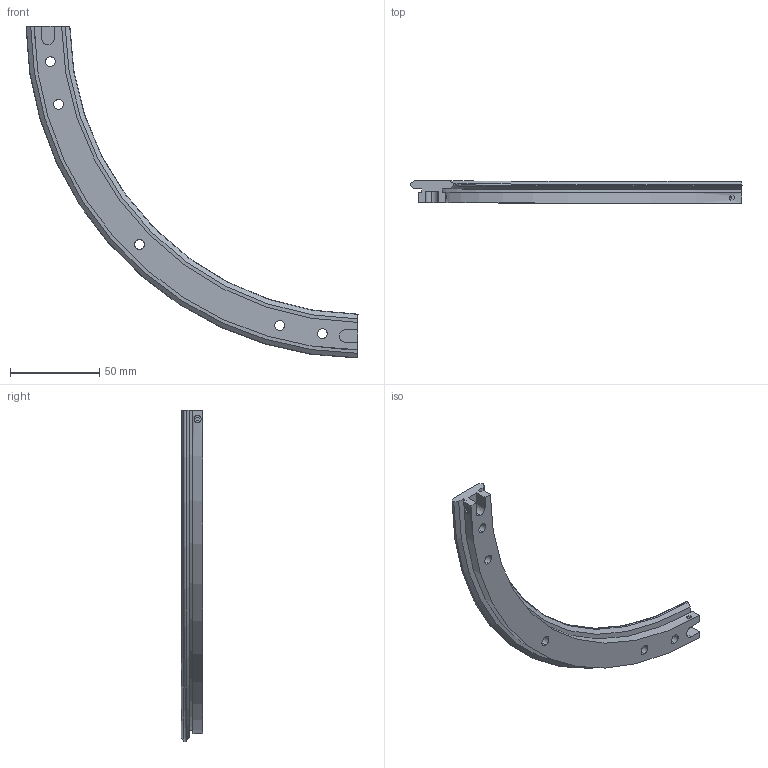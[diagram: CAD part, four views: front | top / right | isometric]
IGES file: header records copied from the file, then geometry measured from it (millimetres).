
Start section: 3D InterOp IGES (v. 2019 1.0.2), Spatial Corp. Copyright (c) 1999-2017.
Global section: file name: TR25 351 R90.igs; native system: Spatial Corp.; preprocessor: 3D InterOp GENERIC/IGES 3.0; author: Noname; organization: Noname; date: 20220628.092401; units: millimetre
Bounding box: 186.3 x 12.25 x 186.3 mm (x, y, z)
Surface area: 22711.8 mm2 (no closed solid volume)
Topology: 0 solids, 0 shells, 92 faces, 462 edges, 462 vertices
Faces by surface type: extrusion 51, revolution 41
